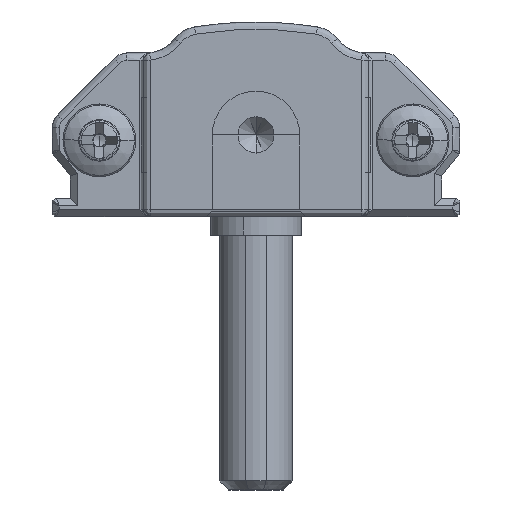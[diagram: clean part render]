
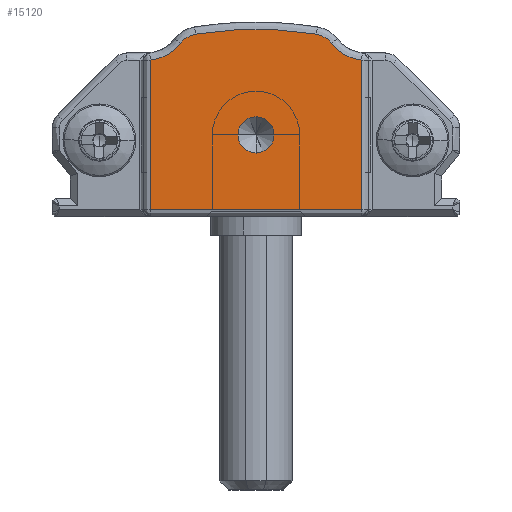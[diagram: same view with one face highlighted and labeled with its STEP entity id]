
A CAD part, front view. The second image highlights one B-rep face of the part: STEP entity #15120.
In plain terms, the highlighted planar face has unit normal (0, -1, 0).
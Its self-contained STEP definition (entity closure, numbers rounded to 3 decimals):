
#146 = LINE ( 'NONE', #32406, #32051 ) ;
#659 = EDGE_CURVE ( 'NONE', #37411, #30048, #16906, .T. ) ;
#1564 = EDGE_LOOP ( 'NONE', ( #6670, #25876 ) ) ;
#1771 = CARTESIAN_POINT ( 'NONE',  ( 22.15, -15., 3.606 ) ) ;
#2144 = AXIS2_PLACEMENT_3D ( 'NONE', #13227, #18112, #27574 ) ;
#2503 = CARTESIAN_POINT ( 'NONE',  ( 11.2, -15., 5.5 ) ) ;
#4042 = DIRECTION ( 'NONE',  ( 0., 0., -1. ) ) ;
#4187 = FACE_BOUND ( 'NONE', #1564, .T. ) ;
#4624 = DIRECTION ( 'NONE',  ( 0., -1., 0. ) ) ;
#4724 = CARTESIAN_POINT ( 'NONE',  ( 17., -15., 0.4 ) ) ;
#5309 = CARTESIAN_POINT ( 'NONE',  ( 11.2, -15., 4.5 ) ) ;
#5984 = CIRCLE ( 'NONE', #38295, 1.3 ) ;
#6103 = EDGE_CURVE ( 'NONE', #34161, #37096, #9343, .T. ) ;
#6670 = ORIENTED_EDGE ( 'NONE', *, *, #6103, .F. ) ;
#6770 = PLANE ( 'NONE',  #24967 ) ;
#8848 = CARTESIAN_POINT ( 'NONE',  ( 14.508, -15., 10.034 ) ) ;
#9028 = AXIS2_PLACEMENT_3D ( 'NONE', #30981, #45334, #20392 ) ;
#9343 = CIRCLE ( 'NONE', #31933, 1. ) ;
#9428 = EDGE_LOOP ( 'NONE', ( #12194, #41253, #21939, #44314, #45913, #15856, #30951, #12702 ) ) ;
#9520 = VERTEX_POINT ( 'NONE', #9952 ) ;
#9952 = CARTESIAN_POINT ( 'NONE',  ( 15.332, -15., 9.541 ) ) ;
#11136 = AXIS2_PLACEMENT_3D ( 'NONE', #29197, #15526, #4042 ) ;
#11385 = CARTESIAN_POINT ( 'NONE',  ( 11.2, -15., -10.376 ) ) ;
#12194 = ORIENTED_EDGE ( 'NONE', *, *, #33031, .T. ) ;
#12233 = EDGE_CURVE ( 'NONE', #9520, #19255, #38241, .T. ) ;
#12702 = ORIENTED_EDGE ( 'NONE', *, *, #36205, .T. ) ;
#12911 = VECTOR ( 'NONE', #26442, 1000. ) ;
#13227 = CARTESIAN_POINT ( 'NONE',  ( 11.2, -15., 4.5 ) ) ;
#14158 = EDGE_CURVE ( 'NONE', #20301, #9520, #38370, .T. ) ;
#14922 = DIRECTION ( 'NONE',  ( 0., -1., 0. ) ) ;
#15120 = ADVANCED_FACE ( 'NONE', ( #17825, #4187 ), #6770, .T. ) ;
#15526 = DIRECTION ( 'NONE',  ( 0., -1., 0. ) ) ;
#15856 = ORIENTED_EDGE ( 'NONE', *, *, #659, .T. ) ;
#16408 = CIRCLE ( 'NONE', #2144, 1. ) ;
#16906 = CIRCLE ( 'NONE', #22085, 2.4 ) ;
#17825 = FACE_OUTER_BOUND ( 'NONE', #9428, .T. ) ;
#18112 = DIRECTION ( 'NONE',  ( 0., -1., 0. ) ) ;
#18595 = LINE ( 'NONE', #4724, #44893 ) ;
#19019 = VERTEX_POINT ( 'NONE', #23084 ) ;
#19255 = VERTEX_POINT ( 'NONE', #8848 ) ;
#20068 = CIRCLE ( 'NONE', #38887, 20.676 ) ;
#20301 = VERTEX_POINT ( 'NONE', #32800 ) ;
#20392 = DIRECTION ( 'NONE',  ( 0., 0., -1. ) ) ;
#20551 = VERTEX_POINT ( 'NONE', #45920 ) ;
#20830 = DIRECTION ( 'NONE',  ( 0., 0., -1. ) ) ;
#21939 = ORIENTED_EDGE ( 'NONE', *, *, #12233, .T. ) ;
#21976 = DIRECTION ( 'NONE',  ( 0., 0., -1. ) ) ;
#22085 = AXIS2_PLACEMENT_3D ( 'NONE', #24829, #35463, #20830 ) ;
#22906 = DIRECTION ( 'NONE',  ( 0., 0., -1. ) ) ;
#23084 = CARTESIAN_POINT ( 'NONE',  ( 17., -15., 0.4 ) ) ;
#23842 = DIRECTION ( 'NONE',  ( 0., -1., 0. ) ) ;
#24354 = VERTEX_POINT ( 'NONE', #37552 ) ;
#24829 = CARTESIAN_POINT ( 'NONE',  ( 5.162, -15., 11. ) ) ;
#24967 = AXIS2_PLACEMENT_3D ( 'NONE', #1771, #40401, #30010 ) ;
#25876 = ORIENTED_EDGE ( 'NONE', *, *, #37822, .F. ) ;
#26103 = EDGE_CURVE ( 'NONE', #20551, #37411, #5984, .T. ) ;
#26442 = DIRECTION ( 'NONE',  ( 0., 0., -1. ) ) ;
#27574 = DIRECTION ( 'NONE',  ( 0., 0., -1. ) ) ;
#29197 = CARTESIAN_POINT ( 'NONE',  ( 14.3, -15., 8.75 ) ) ;
#30010 = DIRECTION ( 'NONE',  ( 0., 0., -1. ) ) ;
#30048 = VERTEX_POINT ( 'NONE', #34276 ) ;
#30275 = EDGE_CURVE ( 'NONE', #30048, #24354, #37042, .T. ) ;
#30951 = ORIENTED_EDGE ( 'NONE', *, *, #30275, .T. ) ;
#30981 = CARTESIAN_POINT ( 'NONE',  ( 17.238, -15., 11. ) ) ;
#31933 = AXIS2_PLACEMENT_3D ( 'NONE', #5309, #4624, #22906 ) ;
#32051 = VECTOR ( 'NONE', #40170, 1000. ) ;
#32406 = CARTESIAN_POINT ( 'NONE',  ( 17., -15., 8.612 ) ) ;
#32800 = CARTESIAN_POINT ( 'NONE',  ( 17., -15., 8.612 ) ) ;
#33031 = EDGE_CURVE ( 'NONE', #19019, #20301, #146, .T. ) ;
#34161 = VERTEX_POINT ( 'NONE', #35153 ) ;
#34276 = CARTESIAN_POINT ( 'NONE',  ( 5.4, -15., 8.612 ) ) ;
#35153 = CARTESIAN_POINT ( 'NONE',  ( 11.2, -15., 3.5 ) ) ;
#35184 = CARTESIAN_POINT ( 'NONE',  ( 8.1, -15., 8.75 ) ) ;
#35463 = DIRECTION ( 'NONE',  ( 0., 1., 0. ) ) ;
#35946 = EDGE_CURVE ( 'NONE', #19255, #20551, #20068, .T. ) ;
#36205 = EDGE_CURVE ( 'NONE', #24354, #19019, #18595, .T. ) ;
#37042 = LINE ( 'NONE', #41287, #12911 ) ;
#37096 = VERTEX_POINT ( 'NONE', #2503 ) ;
#37411 = VERTEX_POINT ( 'NONE', #45746 ) ;
#37552 = CARTESIAN_POINT ( 'NONE',  ( 5.4, -15., 0.4 ) ) ;
#37822 = EDGE_CURVE ( 'NONE', #37096, #34161, #16408, .T. ) ;
#38241 = CIRCLE ( 'NONE', #11136, 1.3 ) ;
#38295 = AXIS2_PLACEMENT_3D ( 'NONE', #35184, #23842, #38918 ) ;
#38370 = CIRCLE ( 'NONE', #9028, 2.4 ) ;
#38887 = AXIS2_PLACEMENT_3D ( 'NONE', #11385, #14922, #21976 ) ;
#38918 = DIRECTION ( 'NONE',  ( 0., 0., -1. ) ) ;
#40170 = DIRECTION ( 'NONE',  ( 0., 0., 1. ) ) ;
#40401 = DIRECTION ( 'NONE',  ( 0., -1., 0. ) ) ;
#41253 = ORIENTED_EDGE ( 'NONE', *, *, #14158, .T. ) ;
#41287 = CARTESIAN_POINT ( 'NONE',  ( 5.4, -15., 0.4 ) ) ;
#43753 = DIRECTION ( 'NONE',  ( 1., 0., 0. ) ) ;
#44314 = ORIENTED_EDGE ( 'NONE', *, *, #35946, .T. ) ;
#44893 = VECTOR ( 'NONE', #43753, 1000. ) ;
#45334 = DIRECTION ( 'NONE',  ( 0., 1., 0. ) ) ;
#45746 = CARTESIAN_POINT ( 'NONE',  ( 7.068, -15., 9.541 ) ) ;
#45913 = ORIENTED_EDGE ( 'NONE', *, *, #26103, .T. ) ;
#45920 = CARTESIAN_POINT ( 'NONE',  ( 7.892, -15., 10.034 ) ) ;
